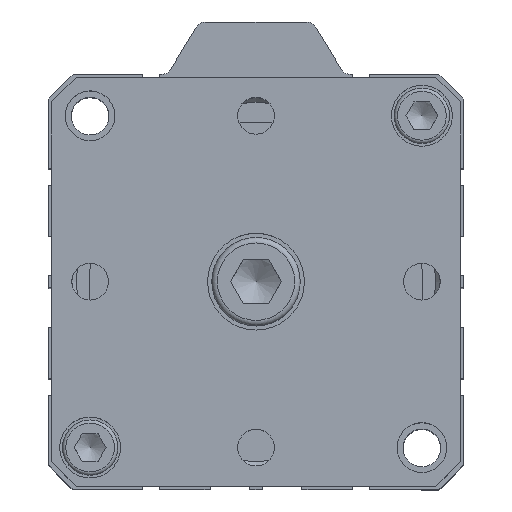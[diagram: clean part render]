
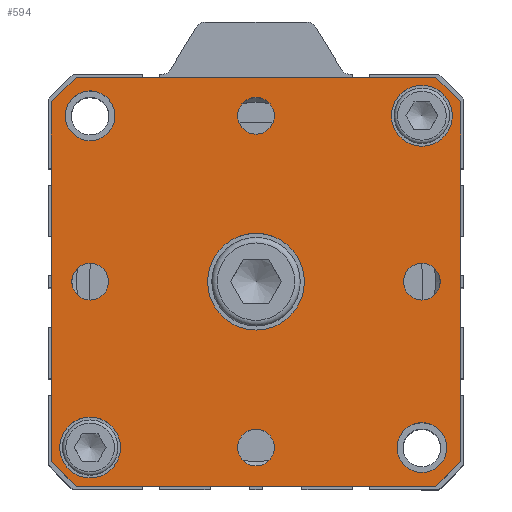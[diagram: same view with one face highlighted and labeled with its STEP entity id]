
A CAD part, top view. The second image highlights one B-rep face of the part: STEP entity #594.
In plain terms, the highlighted planar face has unit normal (0, 0, 1).
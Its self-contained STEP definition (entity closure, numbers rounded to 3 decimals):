
#196=CARTESIAN_POINT('',(32.859,35.684,98.5));
#197=VERTEX_POINT('',#196);
#198=CARTESIAN_POINT('',(37.359,31.184,98.5));
#199=VERTEX_POINT('',#198);
#200=CARTESIAN_POINT('',(32.859,35.684,98.5));
#201=DIRECTION('',(0.707,-0.707,0.0));
#202=VECTOR('',#201,6.364);
#203=LINE('',#200,#202);
#204=EDGE_CURVE('',#197,#199,#203,.T.);
#383=CARTESIAN_POINT('',(37.359,-33.816,98.5));
#384=VERTEX_POINT('',#383);
#385=CARTESIAN_POINT('',(37.359,31.184,98.5));
#386=DIRECTION('',(0.0,-1.0,0.0));
#387=VECTOR('',#386,65.);
#388=LINE('',#385,#387);
#389=EDGE_CURVE('',#199,#384,#388,.T.);
#406=CARTESIAN_POINT('',(32.859,-38.316,98.5));
#407=VERTEX_POINT('',#406);
#408=CARTESIAN_POINT('',(37.359,-33.816,98.5));
#409=DIRECTION('',(-0.707,-0.707,0.0));
#410=VECTOR('',#409,6.364);
#411=LINE('',#408,#410);
#412=EDGE_CURVE('',#384,#407,#411,.T.);
#430=CARTESIAN_POINT('',(-36.641,31.184,98.5));
#431=VERTEX_POINT('',#430);
#432=CARTESIAN_POINT('',(-32.141,35.684,98.5));
#433=VERTEX_POINT('',#432);
#434=CARTESIAN_POINT('',(-36.641,31.184,98.5));
#435=DIRECTION('',(0.707,0.707,0.0));
#436=VECTOR('',#435,6.364);
#437=LINE('',#434,#436);
#438=EDGE_CURVE('',#431,#433,#437,.T.);
#456=CARTESIAN_POINT('',(0.359,-1.316,98.5));
#457=DIRECTION('',(0.0,0.0,1.0));
#458=DIRECTION('',(1.0,0.0,0.0));
#459=AXIS2_PLACEMENT_3D('',#456,#457,#458);
#460=PLANE('',#459);
#461=ORIENTED_EDGE('',*,*,#204,.F.);
#462=CARTESIAN_POINT('',(-32.141,35.684,98.5));
#463=DIRECTION('',(1.0,0.0,0.0));
#464=VECTOR('',#463,65.0);
#465=LINE('',#462,#464);
#466=EDGE_CURVE('',#433,#197,#465,.T.);
#467=ORIENTED_EDGE('',*,*,#466,.F.);
#468=ORIENTED_EDGE('',*,*,#438,.F.);
#469=CARTESIAN_POINT('',(-36.641,-33.816,98.5));
#470=VERTEX_POINT('',#469);
#471=CARTESIAN_POINT('',(-36.641,-33.816,98.5));
#472=DIRECTION('',(0.0,1.0,0.0));
#473=VECTOR('',#472,65.0);
#474=LINE('',#471,#473);
#475=EDGE_CURVE('',#470,#431,#474,.T.);
#476=ORIENTED_EDGE('',*,*,#475,.F.);
#477=CARTESIAN_POINT('',(-32.141,-38.316,98.5));
#478=VERTEX_POINT('',#477);
#479=CARTESIAN_POINT('',(-32.141,-38.316,98.5));
#480=DIRECTION('',(-0.707,0.707,0.0));
#481=VECTOR('',#480,6.364);
#482=LINE('',#479,#481);
#483=EDGE_CURVE('',#478,#470,#482,.T.);
#484=ORIENTED_EDGE('',*,*,#483,.F.);
#485=CARTESIAN_POINT('',(32.859,-38.316,98.5));
#486=DIRECTION('',(-1.0,0.0,0.0));
#487=VECTOR('',#486,65.0);
#488=LINE('',#485,#487);
#489=EDGE_CURVE('',#407,#478,#488,.T.);
#490=ORIENTED_EDGE('',*,*,#489,.F.);
#491=ORIENTED_EDGE('',*,*,#412,.F.);
#492=ORIENTED_EDGE('',*,*,#389,.F.);
#493=EDGE_LOOP('',(#461,#467,#468,#476,#484,#490,#491,#492));
#494=FACE_OUTER_BOUND('',#493,.T.);
#495=CARTESIAN_POINT('',(9.109,-1.316,98.5));
#496=VERTEX_POINT('',#495);
#497=CARTESIAN_POINT('',(0.359,-1.316,98.5));
#498=DIRECTION('',(0.0,0.0,-1.0));
#499=DIRECTION('',(1.0,0.0,0.0));
#500=AXIS2_PLACEMENT_3D('',#497,#498,#499);
#501=CIRCLE('',#500,8.75);
#502=EDGE_CURVE('',#496,#496,#501,.T.);
#503=ORIENTED_EDGE('',*,*,#502,.T.);
#504=EDGE_LOOP('',(#503));
#505=FACE_BOUND('',#504,.T.);
#506=CARTESIAN_POINT('',(-24.141,-31.316,98.5));
#507=VERTEX_POINT('',#506);
#508=CARTESIAN_POINT('',(-29.641,-31.316,98.5));
#509=DIRECTION('',(0.0,0.0,-1.0));
#510=DIRECTION('',(1.0,0.0,0.0));
#511=AXIS2_PLACEMENT_3D('',#508,#509,#510);
#512=CIRCLE('',#511,5.5);
#513=EDGE_CURVE('',#507,#507,#512,.T.);
#514=ORIENTED_EDGE('',*,*,#513,.T.);
#515=EDGE_LOOP('',(#514));
#516=FACE_BOUND('',#515,.T.);
#517=CARTESIAN_POINT('',(35.859,28.684,98.5));
#518=VERTEX_POINT('',#517);
#519=CARTESIAN_POINT('',(30.359,28.684,98.5));
#520=DIRECTION('',(0.0,0.0,-1.0));
#521=DIRECTION('',(1.0,0.0,0.0));
#522=AXIS2_PLACEMENT_3D('',#519,#520,#521);
#523=CIRCLE('',#522,5.5);
#524=EDGE_CURVE('',#518,#518,#523,.T.);
#525=ORIENTED_EDGE('',*,*,#524,.T.);
#526=EDGE_LOOP('',(#525));
#527=FACE_BOUND('',#526,.T.);
#528=CARTESIAN_POINT('',(33.682,-1.316,98.5));
#529=VERTEX_POINT('',#528);
#530=CARTESIAN_POINT('',(30.359,-1.316,98.5));
#531=DIRECTION('',(0.0,0.0,-1.0));
#532=DIRECTION('',(1.0,0.0,0.0));
#533=AXIS2_PLACEMENT_3D('',#530,#531,#532);
#534=CIRCLE('',#533,3.324);
#535=EDGE_CURVE('',#529,#529,#534,.T.);
#536=ORIENTED_EDGE('',*,*,#535,.T.);
#537=EDGE_LOOP('',(#536));
#538=FACE_BOUND('',#537,.T.);
#539=CARTESIAN_POINT('',(3.682,-31.316,98.5));
#540=VERTEX_POINT('',#539);
#541=CARTESIAN_POINT('',(0.359,-31.316,98.5));
#542=DIRECTION('',(0.0,0.0,-1.0));
#543=DIRECTION('',(1.0,0.0,0.0));
#544=AXIS2_PLACEMENT_3D('',#541,#542,#543);
#545=CIRCLE('',#544,3.324);
#546=EDGE_CURVE('',#540,#540,#545,.T.);
#547=ORIENTED_EDGE('',*,*,#546,.T.);
#548=EDGE_LOOP('',(#547));
#549=FACE_BOUND('',#548,.T.);
#550=CARTESIAN_POINT('',(-26.318,-1.316,98.5));
#551=VERTEX_POINT('',#550);
#552=CARTESIAN_POINT('',(-29.641,-1.316,98.5));
#553=DIRECTION('',(0.0,0.0,-1.0));
#554=DIRECTION('',(1.0,0.0,0.0));
#555=AXIS2_PLACEMENT_3D('',#552,#553,#554);
#556=CIRCLE('',#555,3.324);
#557=EDGE_CURVE('',#551,#551,#556,.T.);
#558=ORIENTED_EDGE('',*,*,#557,.T.);
#559=EDGE_LOOP('',(#558));
#560=FACE_BOUND('',#559,.T.);
#561=CARTESIAN_POINT('',(3.682,28.684,98.5));
#562=VERTEX_POINT('',#561);
#563=CARTESIAN_POINT('',(0.359,28.684,98.5));
#564=DIRECTION('',(0.0,0.0,-1.0));
#565=DIRECTION('',(1.0,0.0,0.0));
#566=AXIS2_PLACEMENT_3D('',#563,#564,#565);
#567=CIRCLE('',#566,3.324);
#568=EDGE_CURVE('',#562,#562,#567,.T.);
#569=ORIENTED_EDGE('',*,*,#568,.T.);
#570=EDGE_LOOP('',(#569));
#571=FACE_BOUND('',#570,.T.);
#572=CARTESIAN_POINT('',(34.859,-31.316,98.5));
#573=VERTEX_POINT('',#572);
#574=CARTESIAN_POINT('',(30.359,-31.316,98.5));
#575=DIRECTION('',(0.0,0.0,-1.0));
#576=DIRECTION('',(-1.0,0.0,0.0));
#577=AXIS2_PLACEMENT_3D('',#574,#575,#576);
#578=CIRCLE('',#577,4.5);
#579=EDGE_CURVE('',#573,#573,#578,.T.);
#580=ORIENTED_EDGE('',*,*,#579,.T.);
#581=EDGE_LOOP('',(#580));
#582=FACE_BOUND('',#581,.T.);
#583=CARTESIAN_POINT('',(-25.141,28.684,98.5));
#584=VERTEX_POINT('',#583);
#585=CARTESIAN_POINT('',(-29.641,28.684,98.5));
#586=DIRECTION('',(0.0,0.0,-1.0));
#587=DIRECTION('',(-1.0,0.0,0.0));
#588=AXIS2_PLACEMENT_3D('',#585,#586,#587);
#589=CIRCLE('',#588,4.5);
#590=EDGE_CURVE('',#584,#584,#589,.T.);
#591=ORIENTED_EDGE('',*,*,#590,.T.);
#592=EDGE_LOOP('',(#591));
#593=FACE_BOUND('',#592,.T.);
#594=ADVANCED_FACE('',(#494,#505,#516,#527,#538,#549,#560,#571,#582,#593),#460,.T.);
